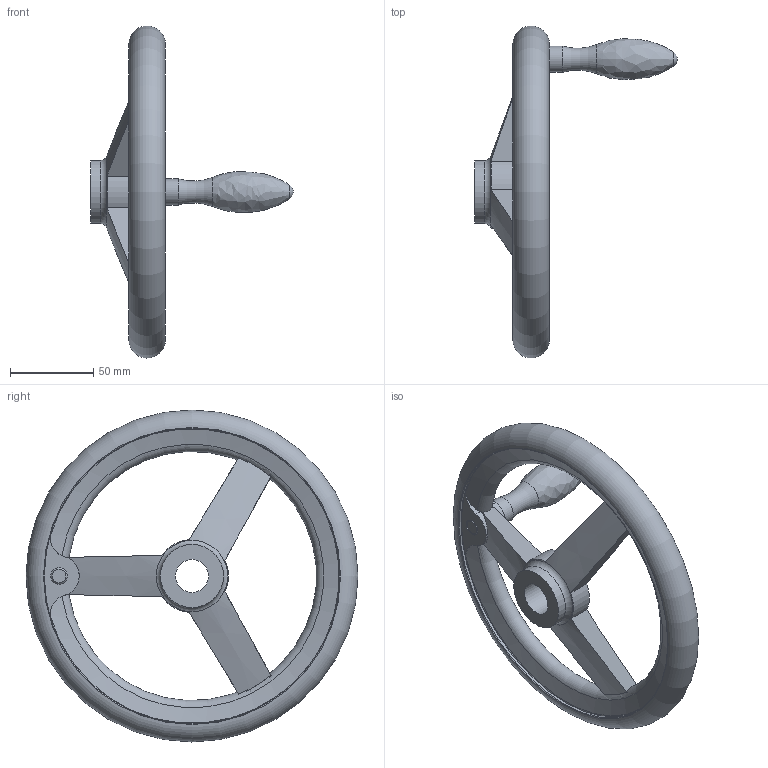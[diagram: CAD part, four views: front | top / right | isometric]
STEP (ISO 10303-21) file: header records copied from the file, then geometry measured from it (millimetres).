
FILE_DESCRIPTION( ( 'STEP AP203' ), '1' );
FILE_NAME( 'C:/Temp/Ganter_Step_05_03_2020/data/1_3/din_950/din_950_b/din_950_b_f/Handwheel DIN 950-AL-200-B20-F.stp', '2020-03-05T10:30:15', ( 'License CC BY-ND 4.0' ), ( 'CADENAS' ), ' ', 'PARTsolutions', ' ' );
FILE_SCHEMA( ( 'CONFIG_CONTROL_DESIGN' ) );
Length unit declared in the file: millimetre
Products named in the file (1): _Handwheel DIN 950-AL-200-B20-F
Bounding box: 122 x 199.96 x 199.96 mm (x, y, z)
Volume: 296455 mm3; surface area: 63542.9 mm2
Topology: 1 solids, 1 shells, 49 faces, 137 edges, 87 vertices
Faces by surface type: cylinder 16, torus 15, plane 11, cone 5, bspline 1, sphere 1
Full cylindrical faces by diameter (mm): 10 x1, 15.8 x1, 20 x1, 38 x2, 178 x2
Entity records: 1914 total; most frequent: CARTESIAN_POINT 768, ORIENTED_EDGE 222, DIRECTION 210, EDGE_CURVE 111, AXIS2_PLACEMENT_3D 98, VERTEX_POINT 83, EDGE_LOOP 74, FACE_OUTER_BOUND 65
